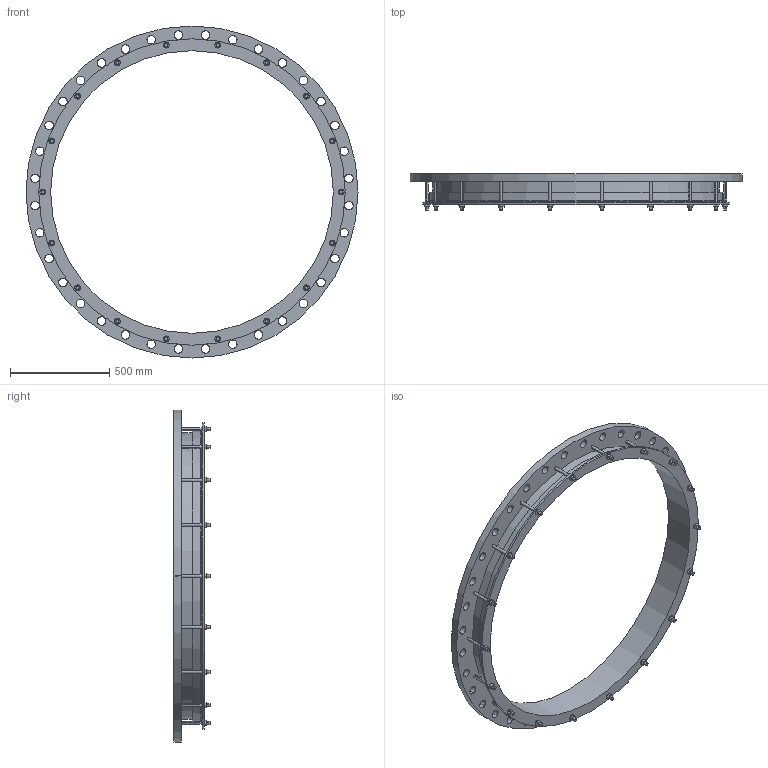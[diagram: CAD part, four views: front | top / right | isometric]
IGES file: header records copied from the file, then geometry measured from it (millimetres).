
Start section:  PTC IGES file: 1422x1400pn10.igs
Global section: file name: 1422x1400pn10.igs; native system: Creo Parametric by PTC Inc.; preprocessor: 2016130; author: mfairey; organization: Unknown; date: 20190117.141436; units: millimetre
Bounding box: 1675 x 182 x 1675 mm (x, y, z)
Surface area: 3259775.2 mm2 (no closed solid volume)
Topology: 0 solids, 0 shells, 360 faces, 1912 edges, 1912 vertices
Faces by surface type: revolution 194, bspline 166
